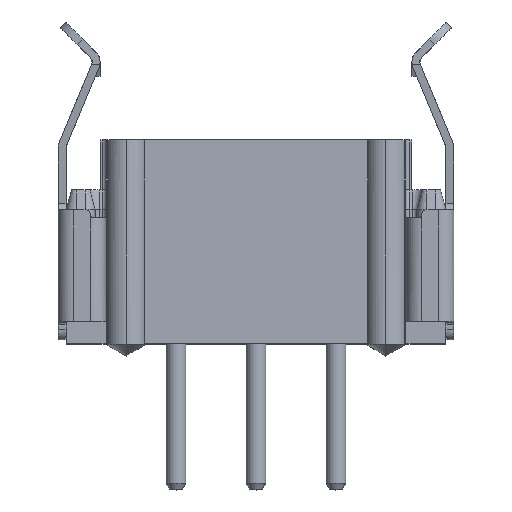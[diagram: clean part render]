
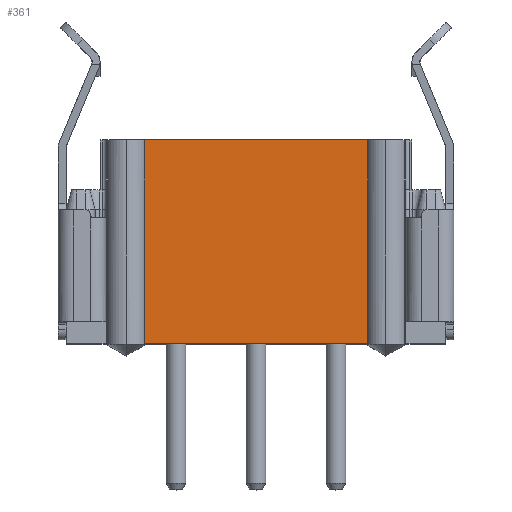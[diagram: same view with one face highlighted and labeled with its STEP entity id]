
A CAD part, top view. The second image highlights one B-rep face of the part: STEP entity #361.
In plain terms, the highlighted planar face has unit normal (0, 0, 1).
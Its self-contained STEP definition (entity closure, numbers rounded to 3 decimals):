
#361=ADVANCED_FACE('',(#995),#996,.T.);
#995=FACE_OUTER_BOUND('',#2213,.T.);
#996=PLANE('',#2214);
#2213=EDGE_LOOP('',(#3922,#3923,#3924,#3925));
#2214=AXIS2_PLACEMENT_3D('',#3926,#3927,#3928);
#3922=ORIENTED_EDGE('',*,*,#7667,.F.);
#3923=ORIENTED_EDGE('',*,*,#7607,.F.);
#3924=ORIENTED_EDGE('',*,*,#7668,.F.);
#3925=ORIENTED_EDGE('',*,*,#7643,.T.);
#3926=CARTESIAN_POINT('',(3.75,0.0,2.775));
#3927=DIRECTION('',(0.0,0.0,1.0));
#3928=DIRECTION('',(1.0,0.0,0.0));
#7607=EDGE_CURVE('',#9066,#9027,#9068,.T.);
#7643=EDGE_CURVE('',#9117,#9118,#9119,.T.);
#7667=EDGE_CURVE('',#9027,#9118,#9161,.T.);
#7668=EDGE_CURVE('',#9117,#9066,#9162,.T.);
#9027=VERTEX_POINT('',#11179);
#9066=VERTEX_POINT('',#11237);
#9068=LINE('',#11239,#11240);
#9117=VERTEX_POINT('',#11307);
#9118=VERTEX_POINT('',#11308);
#9119=LINE('',#11309,#11310);
#9161=LINE('',#11369,#11370);
#9162=LINE('',#11371,#11372);
#11179=CARTESIAN_POINT('',(-2.792,0.0,2.775));
#11237=CARTESIAN_POINT('',(2.792,0.0,2.775));
#11239=CARTESIAN_POINT('',(2.792,0.0,2.775));
#11240=VECTOR('',#14325,5.583);
#11307=CARTESIAN_POINT('',(2.792,5.1,2.775));
#11308=CARTESIAN_POINT('',(-2.792,5.1,2.775));
#11309=CARTESIAN_POINT('',(2.792,5.1,2.775));
#11310=VECTOR('',#14395,5.583);
#11369=CARTESIAN_POINT('',(-2.792,0.0,2.775));
#11370=VECTOR('',#14431,5.1);
#11371=CARTESIAN_POINT('',(2.792,5.1,2.775));
#11372=VECTOR('',#14432,5.1);
#14325=DIRECTION('',(-1.0,0.0,0.0));
#14395=DIRECTION('',(-1.0,0.0,0.0));
#14431=DIRECTION('',(0.0,1.0,0.0));
#14432=DIRECTION('',(0.0,-1.0,0.0));
